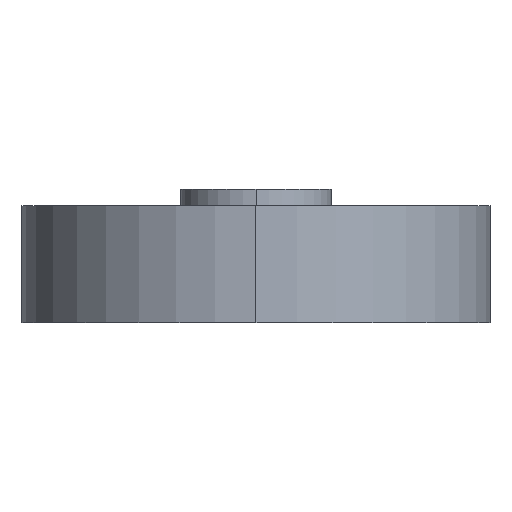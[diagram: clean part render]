
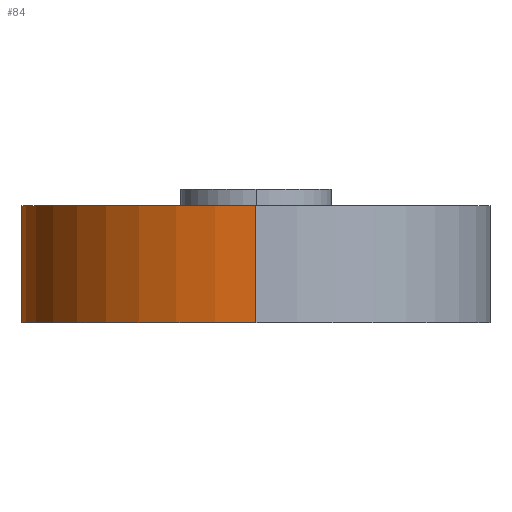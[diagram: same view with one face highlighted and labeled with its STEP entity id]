
A CAD part, left-side view. The second image highlights one B-rep face of the part: STEP entity #84.
In plain terms, the highlighted cylindrical face has radius 14 mm (diameter 28 mm), a partial arc.
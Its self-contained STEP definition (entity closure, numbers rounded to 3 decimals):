
#84=ADVANCED_FACE('',(#232),#233,.T.);
#232=FACE_OUTER_BOUND('',#553,.T.);
#233=CYLINDRICAL_SURFACE('',#554,14.0);
#553=EDGE_LOOP('',(#919,#920,#921,#922,#923,#924));
#554=AXIS2_PLACEMENT_3D('',#925,#926,#927);
#919=ORIENTED_EDGE('',*,*,#1860,.F.);
#920=ORIENTED_EDGE('',*,*,#1861,.F.);
#921=ORIENTED_EDGE('',*,*,#1862,.F.);
#922=ORIENTED_EDGE('',*,*,#1863,.F.);
#923=ORIENTED_EDGE('',*,*,#1864,.F.);
#924=ORIENTED_EDGE('',*,*,#1865,.T.);
#925=CARTESIAN_POINT('',(0.0,0.0,3.5));
#926=DIRECTION('',(0.0,0.0,-1.0));
#927=DIRECTION('',(1.0,0.0,0.0));
#1860=EDGE_CURVE('',#2173,#2174,#2175,.T.);
#1861=EDGE_CURVE('',#2176,#2173,#2177,.T.);
#1862=EDGE_CURVE('',#2178,#2176,#2179,.T.);
#1863=EDGE_CURVE('',#2180,#2178,#2181,.T.);
#1864=EDGE_CURVE('',#2182,#2180,#2183,.T.);
#1865=EDGE_CURVE('',#2182,#2174,#2184,.T.);
#2173=VERTEX_POINT('',#2652);
#2174=VERTEX_POINT('',#2653);
#2175=LINE('',#2654,#2655);
#2176=VERTEX_POINT('',#2656);
#2177=CIRCLE('',#2657,14.0);
#2178=VERTEX_POINT('',#2658);
#2179=LINE('',#2659,#2660);
#2180=VERTEX_POINT('',#2661);
#2181=CIRCLE('',#2662,14.0);
#2182=VERTEX_POINT('',#2663);
#2183=LINE('',#2664,#2665);
#2184=B_SPLINE_CURVE_WITH_KNOTS('',3,(#2666,#2667,#2668,#2669,#2670,#2671,#2672,#2673,#2674,#2675,#2676,#2677,#2678,#2679,#2680,#2681,#2682,#2683,#2684),.UNSPECIFIED.,.F.,.F.,(4,2,2,2,3,2,2,2,4),(6.559,7.106,7.653,8.199,8.746,9.292,9.839,10.386,10.932),.UNSPECIFIED.);
#2652=CARTESIAN_POINT('',(14.0,0.0,0.0));
#2653=CARTESIAN_POINT('',(14.0,0.0,1.05));
#2654=CARTESIAN_POINT('',(14.0,0.,3.5));
#2655=VECTOR('',#3223,1.0);
#2656=CARTESIAN_POINT('',(-14.0,0.,0.0));
#2657=AXIS2_PLACEMENT_3D('',#3224,#3225,#3226);
#2658=CARTESIAN_POINT('',(-14.0,0.,7.0));
#2659=CARTESIAN_POINT('',(-14.0,0.,3.5));
#2660=VECTOR('',#3227,1.0);
#2661=CARTESIAN_POINT('',(14.0,0.0,7.0));
#2662=AXIS2_PLACEMENT_3D('',#3228,#3229,#3230);
#2663=CARTESIAN_POINT('',(14.0,0.,3.95));
#2664=CARTESIAN_POINT('',(14.0,0.,3.5));
#2665=VECTOR('',#3231,1.0);
#2666=CARTESIAN_POINT('',(14.0,0.,3.95));
#2667=CARTESIAN_POINT('',(14.0,0.182,3.95));
#2668=CARTESIAN_POINT('',(13.996,0.376,3.914));
#2669=CARTESIAN_POINT('',(13.982,0.734,3.766));
#2670=CARTESIAN_POINT('',(13.972,0.897,3.654));
#2671=CARTESIAN_POINT('',(13.953,1.154,3.397));
#2672=CARTESIAN_POINT('',(13.943,1.266,3.234));
#2673=CARTESIAN_POINT('',(13.929,1.414,2.876));
#2674=CARTESIAN_POINT('',(13.925,1.45,2.682));
#2675=CARTESIAN_POINT('',(13.925,1.45,2.5));
#2676=CARTESIAN_POINT('',(13.925,1.45,2.318));
#2677=CARTESIAN_POINT('',(13.929,1.414,2.124));
#2678=CARTESIAN_POINT('',(13.943,1.266,1.766));
#2679=CARTESIAN_POINT('',(13.953,1.154,1.603));
#2680=CARTESIAN_POINT('',(13.972,0.897,1.346));
#2681=CARTESIAN_POINT('',(13.982,0.734,1.234));
#2682=CARTESIAN_POINT('',(13.996,0.376,1.086));
#2683=CARTESIAN_POINT('',(14.0,0.182,1.05));
#2684=CARTESIAN_POINT('',(14.0,0.0,1.05));
#3223=DIRECTION('',(0.0,0.0,1.0));
#3224=CARTESIAN_POINT('',(0.0,0.0,0.0));
#3225=DIRECTION('',(0.0,0.0,-1.0));
#3226=DIRECTION('',(1.0,0.0,0.0));
#3227=DIRECTION('',(0.0,0.0,-1.0));
#3228=CARTESIAN_POINT('',(0.0,0.0,7.0));
#3229=DIRECTION('',(0.0,0.0,1.0));
#3230=DIRECTION('',(1.0,0.0,0.0));
#3231=DIRECTION('',(0.0,0.0,1.0));
